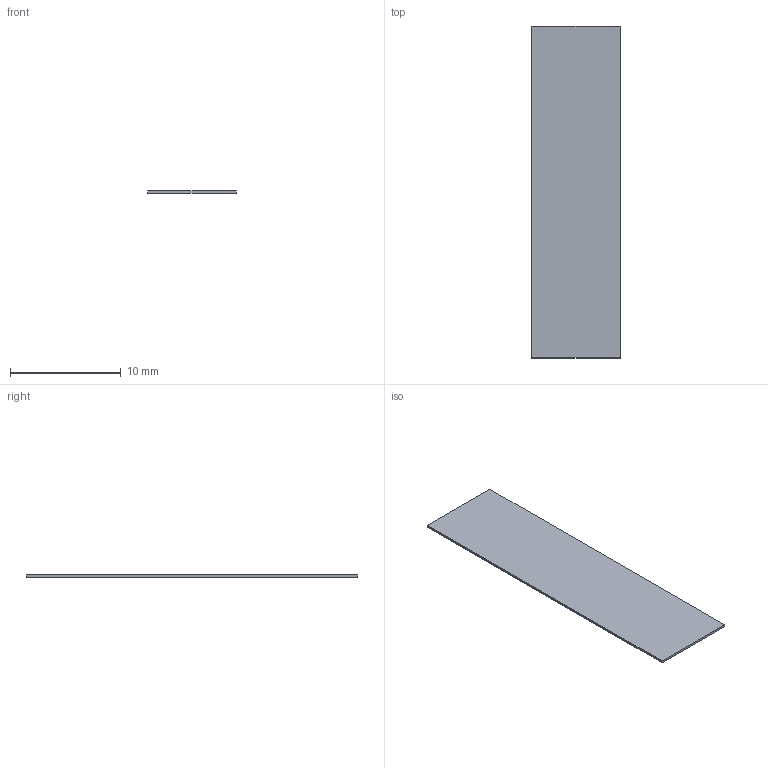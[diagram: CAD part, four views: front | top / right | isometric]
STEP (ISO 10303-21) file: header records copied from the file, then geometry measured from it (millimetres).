
FILE_DESCRIPTION(('Open CASCADE Model'),'2;1');
FILE_NAME('Open CASCADE Shape Model','2026-10-26T08:26:48',('Author'),( 'Open CASCADE'),'Open CASCADE STEP processor 7.8','Open CASCADE 7.8' ,'Unknown');
FILE_SCHEMA(('AUTOMOTIVE_DESIGN { 1 0 10303 214 1 1 1 1 }'));
Length unit declared in the file: millimetre
Products named in the file (1): Open CASCADE STEP translator 7.8 5
Bounding box: 8 x 30 x 0.2 mm (x, y, z)
Volume: 48 mm3; surface area: 495.2 mm2
Topology: 1 solids, 1 shells, 6 faces, 12 edges, 8 vertices
Faces by surface type: plane 6
Entity records: 322 total; most frequent: CARTESIAN_POINT 51, DIRECTION 50, LINE 36, VECTOR 36, ORIENTED_EDGE 24, PCURVE 24, DEFINITIONAL_REPRESENTATION 24, EDGE_CURVE 12
